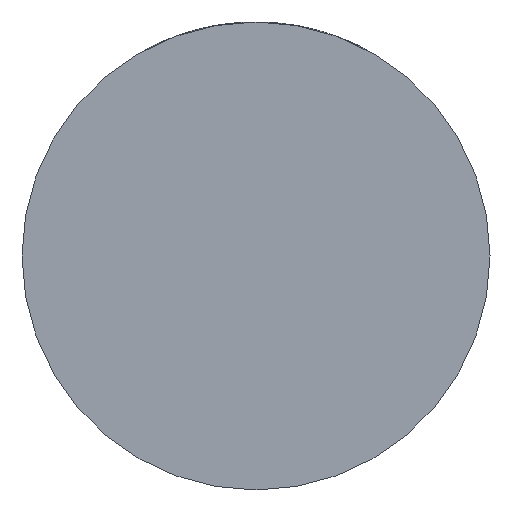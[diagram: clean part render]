
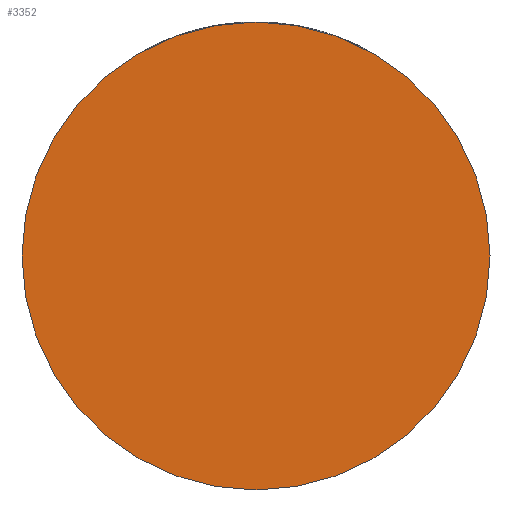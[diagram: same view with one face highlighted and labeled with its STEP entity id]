
A CAD part, front view. The second image highlights one B-rep face of the part: STEP entity #3352.
In plain terms, the highlighted planar face has unit normal (0, -1, 0).
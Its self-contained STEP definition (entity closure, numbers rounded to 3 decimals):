
#22 = EDGE_CURVE ( 'NONE', #1526, #4196, #510, .T. ) ;
#510 = CIRCLE ( 'NONE', #4066, 39. ) ;
#566 = AXIS2_PLACEMENT_3D ( 'NONE', #1023, #2408, #1624 ) ;
#618 = CARTESIAN_POINT ( 'NONE',  ( 39., -36., 0. ) ) ;
#725 = ORIENTED_EDGE ( 'NONE', *, *, #4490, .T. ) ;
#1023 = CARTESIAN_POINT ( 'NONE',  ( 0., -36., 0. ) ) ;
#1177 = ORIENTED_EDGE ( 'NONE', *, *, #22, .T. ) ;
#1526 = VERTEX_POINT ( 'NONE', #2170 ) ;
#1624 = DIRECTION ( 'NONE',  ( 1., 0., 0. ) ) ;
#1791 = CARTESIAN_POINT ( 'NONE',  ( 0., -36., 0. ) ) ;
#2024 = FACE_OUTER_BOUND ( 'NONE', #3908, .T. ) ;
#2126 = DIRECTION ( 'NONE',  ( 1., 0., 0. ) ) ;
#2170 = CARTESIAN_POINT ( 'NONE',  ( -39., -36., 0. ) ) ;
#2185 = CIRCLE ( 'NONE', #2683, 39. ) ;
#2408 = DIRECTION ( 'NONE',  ( 0., -1., 0. ) ) ;
#2683 = AXIS2_PLACEMENT_3D ( 'NONE', #4362, #3074, #3094 ) ;
#3074 = DIRECTION ( 'NONE',  ( 0., -1., 0. ) ) ;
#3094 = DIRECTION ( 'NONE',  ( 1., 0., 0. ) ) ;
#3352 = ADVANCED_FACE ( 'NONE', ( #2024 ), #4037, .T. ) ;
#3908 = EDGE_LOOP ( 'NONE', ( #1177, #725 ) ) ;
#4037 = PLANE ( 'NONE',  #566 ) ;
#4066 = AXIS2_PLACEMENT_3D ( 'NONE', #1791, #4167, #2126 ) ;
#4167 = DIRECTION ( 'NONE',  ( 0., -1., 0. ) ) ;
#4196 = VERTEX_POINT ( 'NONE', #618 ) ;
#4362 = CARTESIAN_POINT ( 'NONE',  ( 0., -36., 0. ) ) ;
#4490 = EDGE_CURVE ( 'NONE', #4196, #1526, #2185, .T. ) ;
